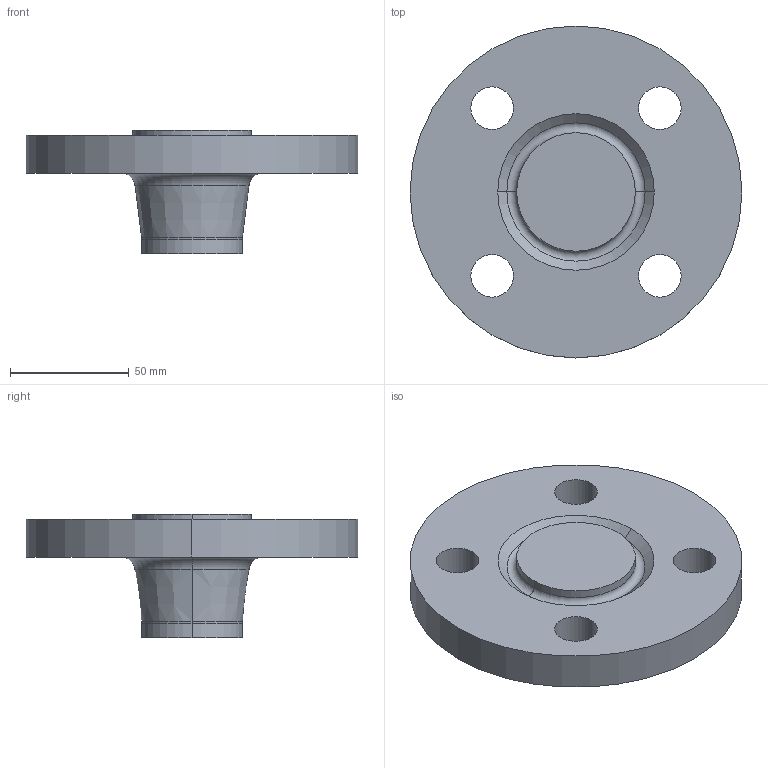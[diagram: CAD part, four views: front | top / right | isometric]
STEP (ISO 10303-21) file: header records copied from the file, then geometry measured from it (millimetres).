
FILE_DESCRIPTION (( 'STEP AP214' ), '1' );
FILE_NAME ('PN40 DN32 Type 21(ii) - Type H Face.STEP', '2018-12-29T23:39:13', ( '' ), ( '' ), 'SwSTEP 2.0', 'SolidWorks 2019', '' );
FILE_SCHEMA (( 'AUTOMOTIVE_DESIGN' ));
Length unit declared in the file: millimetre
Products named in the file (1): PN40 DN32 Type 21(ii) - Type H Face
Bounding box: 140 x 140 x 52 mm (x, y, z)
Volume: 285902.4 mm3; surface area: 44537.3 mm2
Topology: 1 solids, 1 shells, 28 faces, 62 edges, 38 vertices
Faces by surface type: cylinder 14, torus 6, cone 4, plane 4
Entity records: 840 total; most frequent: DIRECTION 164, CARTESIAN_POINT 129, ORIENTED_EDGE 124, AXIS2_PLACEMENT_3D 73, EDGE_CURVE 62, CIRCLE 44, VERTEX_POINT 38, EDGE_LOOP 38
